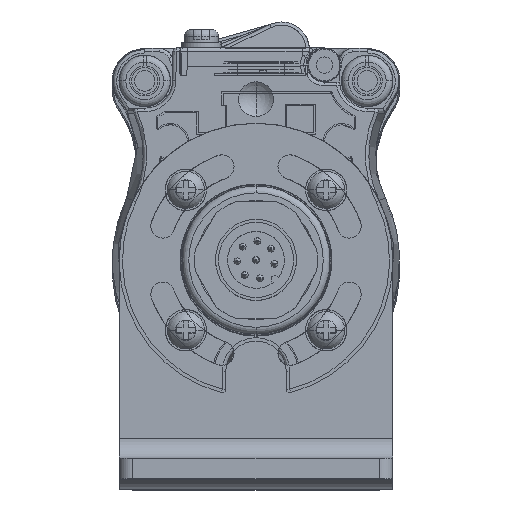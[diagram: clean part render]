
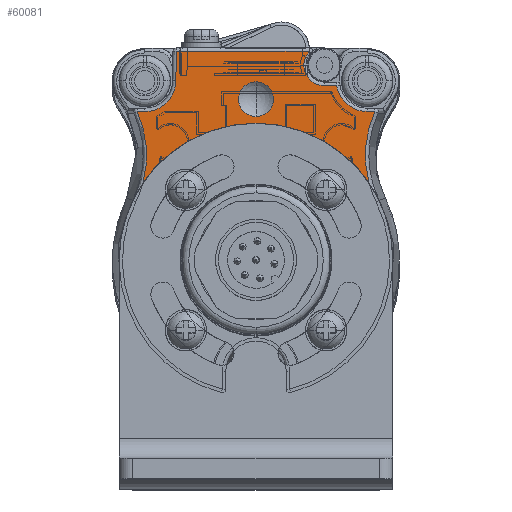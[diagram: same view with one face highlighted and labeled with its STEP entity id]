
A CAD part, top view. The second image highlights one B-rep face of the part: STEP entity #60081.
In plain terms, the highlighted planar face has unit normal (0, 0, 1).
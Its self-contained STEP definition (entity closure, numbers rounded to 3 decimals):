
#2067=CARTESIAN_POINT('',(0.,0.,50.));
#2068=DIRECTION('',(0.,0.,1.));
#2069=DIRECTION('',(0.826,0.563,0.));
#2070=AXIS2_PLACEMENT_3D('',#2067,#2068,#2069);
#2075=CARTESIAN_POINT('',(-31.48,15.3,50.));
#2076=DIRECTION('',(0.,0.,-1.));
#2077=DIRECTION('',(0.911,0.413,0.));
#2078=AXIS2_PLACEMENT_3D('',#2075,#2076,#2077);
#2083=DIRECTION('',(-1.,0.,0.));
#2084=VECTOR('',#2083,1.114);
#2085=CARTESIAN_POINT('',(-16.26,21.7,50.));
#2086=LINE('',#2085,#2084);
#2090=CARTESIAN_POINT('',(-16.26,26.25,50.));
#2091=DIRECTION('',(0.,0.,-1.));
#2092=DIRECTION('',(1.,-0.001,0.));
#2093=AXIS2_PLACEMENT_3D('',#2090,#2091,#2092);
#2098=DIRECTION('',(-0.017,-1.,0.));
#2099=VECTOR('',#2098,4.255);
#2100=CARTESIAN_POINT('',(-11.636,30.5,50.));
#2101=LINE('',#2100,#2099);
#2105=DIRECTION('',(-1.,0.,0.));
#2106=VECTOR('',#2105,19.4);
#2107=CARTESIAN_POINT('',(7.764,30.5,50.));
#2108=LINE('',#2107,#2106);
#2112=CARTESIAN_POINT('',(10.,28.5,50.));
#2113=DIRECTION('',(0.,0.,-1.));
#2114=DIRECTION('',(0.,-1.,0.));
#2115=AXIS2_PLACEMENT_3D('',#2112,#2113,#2114);
#2120=DIRECTION('',(-1.,0.,0.));
#2121=VECTOR('',#2120,1.762);
#2122=CARTESIAN_POINT('',(11.762,25.5,50.));
#2123=LINE('',#2122,#2121);
#2127=CARTESIAN_POINT('',(16.25,26.25,50.));
#2128=DIRECTION('',(0.,0.,-1.));
#2129=DIRECTION('',(0.,-1.,0.));
#2130=AXIS2_PLACEMENT_3D('',#2127,#2128,#2129);
#2135=DIRECTION('',(-1.,0.,0.));
#2136=VECTOR('',#2135,1.124);
#2137=CARTESIAN_POINT('',(17.374,21.7,50.));
#2138=LINE('',#2137,#2136);
#2142=CARTESIAN_POINT('',(31.48,15.3,50.));
#2143=DIRECTION('',(0.,0.,-1.));
#2144=DIRECTION('',(-0.966,-0.26,0.));
#2145=AXIS2_PLACEMENT_3D('',#2142,#2143,#2144);
#2150=CARTESIAN_POINT('',(0.,23.51,50.));
#2151=DIRECTION('',(0.,0.,1.));
#2152=DIRECTION('',(0.,-1.,0.));
#2153=AXIS2_PLACEMENT_3D('',#2150,#2151,#2152);
#2158=CARTESIAN_POINT('',(0.,23.51,50.));
#2159=DIRECTION('',(0.,0.,1.));
#2160=DIRECTION('',(0.,1.,0.));
#2161=AXIS2_PLACEMENT_3D('',#2158,#2159,#2160);
#53310=CARTESIAN_POINT('',(-11.71,26.246,50.));
#53311=CARTESIAN_POINT('',(-16.26,21.7,50.));
#53312=VERTEX_POINT('',#53310);
#53313=VERTEX_POINT('',#53311);
#53320=CARTESIAN_POINT('',(-11.636,30.5,50.));
#53321=VERTEX_POINT('',#53320);
#53324=CARTESIAN_POINT('',(7.764,30.5,50.));
#53325=VERTEX_POINT('',#53324);
#53330=CARTESIAN_POINT('',(10.,25.5,50.));
#53331=VERTEX_POINT('',#53330);
#53334=CARTESIAN_POINT('',(11.762,25.5,50.));
#53335=VERTEX_POINT('',#53334);
#53340=CARTESIAN_POINT('',(16.25,21.7,50.));
#53341=VERTEX_POINT('',#53340);
#53344=CARTESIAN_POINT('',(17.374,21.7,50.));
#53345=VERTEX_POINT('',#53344);
#53370=CARTESIAN_POINT('',(-17.374,21.7,50.));
#53371=VERTEX_POINT('',#53370);
#53437=CARTESIAN_POINT('',(0.,20.97,50.));
#53438=CARTESIAN_POINT('',(0.,26.05,50.));
#53439=VERTEX_POINT('',#53437);
#53440=VERTEX_POINT('',#53438);
#55187=CARTESIAN_POINT('',(16.525,11.267,50.));
#55188=CARTESIAN_POINT('',(-16.525,11.267,50.));
#55189=VERTEX_POINT('',#55187);
#55190=VERTEX_POINT('',#55188);
#60047=CARTESIAN_POINT('',(0.,0.,50.));
#60048=DIRECTION('',(0.,0.,1.));
#60049=DIRECTION('',(1.,0.,0.));
#60050=AXIS2_PLACEMENT_3D('',#60047,#60048,#60049);
#60051=PLANE('',#60050);
#60053=ORIENTED_EDGE('',*,*,#60052,.T.);
#60055=ORIENTED_EDGE('',*,*,#60054,.F.);
#60057=ORIENTED_EDGE('',*,*,#60056,.F.);
#60059=ORIENTED_EDGE('',*,*,#60058,.F.);
#60061=ORIENTED_EDGE('',*,*,#60060,.F.);
#60063=ORIENTED_EDGE('',*,*,#60062,.F.);
#60065=ORIENTED_EDGE('',*,*,#60064,.F.);
#60067=ORIENTED_EDGE('',*,*,#60066,.F.);
#60068=ORIENTED_EDGE('',*,*,#60030,.F.);
#60070=ORIENTED_EDGE('',*,*,#60069,.F.);
#60072=ORIENTED_EDGE('',*,*,#60071,.F.);
#60073=EDGE_LOOP('',(#60053,#60055,#60057,#60059,#60061,#60063,#60065,#60067,
#60068,#60070,#60072));
#60074=FACE_OUTER_BOUND('',#60073,.F.);
#60076=ORIENTED_EDGE('',*,*,#60075,.T.);
#60078=ORIENTED_EDGE('',*,*,#60077,.T.);
#60079=EDGE_LOOP('',(#60076,#60078));
#60080=FACE_BOUND('',#60079,.F.);
#2071=CIRCLE('',#2070,20.);
#2079=CIRCLE('',#2078,15.49);
#2094=CIRCLE('',#2093,4.55);
#2116=CIRCLE('',#2115,3.);
#2131=CIRCLE('',#2130,4.55);
#2146=CIRCLE('',#2145,15.49);
#2154=CIRCLE('',#2153,2.54);
#2162=CIRCLE('',#2161,2.54);
#60030=EDGE_CURVE('',#53341,#53335,#2131,.T.);
#60052=EDGE_CURVE('',#55189,#55190,#2071,.T.);
#60054=EDGE_CURVE('',#53371,#55190,#2079,.T.);
#60056=EDGE_CURVE('',#53313,#53371,#2086,.T.);
#60058=EDGE_CURVE('',#53312,#53313,#2094,.T.);
#60060=EDGE_CURVE('',#53321,#53312,#2101,.T.);
#60062=EDGE_CURVE('',#53325,#53321,#2108,.T.);
#60064=EDGE_CURVE('',#53331,#53325,#2116,.T.);
#60066=EDGE_CURVE('',#53335,#53331,#2123,.T.);
#60069=EDGE_CURVE('',#53345,#53341,#2138,.T.);
#60071=EDGE_CURVE('',#55189,#53345,#2146,.T.);
#60075=EDGE_CURVE('',#53439,#53440,#2154,.T.);
#60077=EDGE_CURVE('',#53440,#53439,#2162,.T.);
#60081=ADVANCED_FACE('',(#60074,#60080),#60051,.T.);
